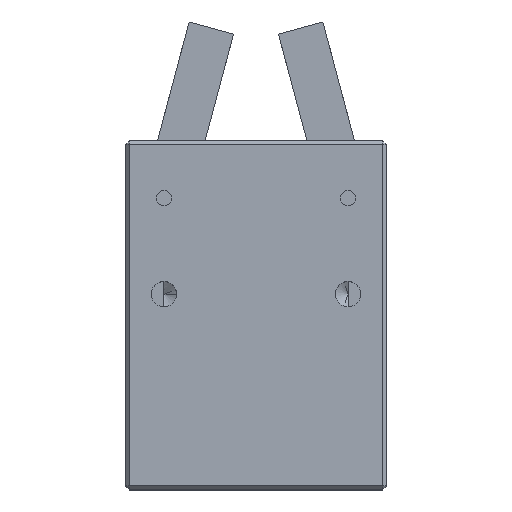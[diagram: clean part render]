
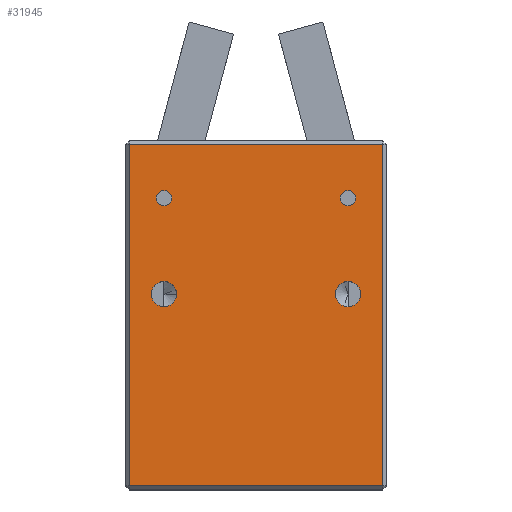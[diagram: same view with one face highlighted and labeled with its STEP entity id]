
A CAD part, top view. The second image highlights one B-rep face of the part: STEP entity #31945.
In plain terms, the highlighted planar face has unit normal (0, 0, 1).
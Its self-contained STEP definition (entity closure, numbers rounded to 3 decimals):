
#4267 = EDGE_CURVE ( 'NONE', #6740, #6705, #17646, .T. ) ;
#4349 = VERTEX_POINT ( 'NONE', #17832 ) ;
#4401 = VERTEX_POINT ( 'NONE', #17894 ) ;
#4404 = VERTEX_POINT ( 'NONE', #17893 ) ;
#4410 = EDGE_CURVE ( 'NONE', #4432, #4349, #17987, .T. ) ;
#4417 = EDGE_CURVE ( 'NONE', #4404, #4401, #18015, .T. ) ;
#4432 = VERTEX_POINT ( 'NONE', #18003 ) ;
#6705 = VERTEX_POINT ( 'NONE', #28125 ) ;
#6724 = VERTEX_POINT ( 'NONE', #28176 ) ;
#6733 = VERTEX_POINT ( 'NONE', #28173 ) ;
#6740 = VERTEX_POINT ( 'NONE', #28178 ) ;
#6741 = EDGE_CURVE ( 'NONE', #6733, #6724, #28172, .T. ) ;
#17632 = DIRECTION ( 'NONE',  ( 1., 0., 0. ) ) ;
#17633 = DIRECTION ( 'NONE',  ( 0., 0., 1. ) ) ;
#17634 = CARTESIAN_POINT ( 'NONE',  ( 5., 38., 22. ) ) ;
#17641 = AXIS2_PLACEMENT_3D ( 'NONE', #17634, #17633, #17632 ) ;
#17646 = CIRCLE ( 'NONE', #17641, 1. ) ;
#17832 = CARTESIAN_POINT ( 'NONE',  ( 6.65, 25.5, 22. ) ) ;
#17893 = CARTESIAN_POINT ( 'NONE',  ( 27.35, 25.5, 22. ) ) ;
#17894 = CARTESIAN_POINT ( 'NONE',  ( 30.65, 25.5, 22. ) ) ;
#17942 = AXIS2_PLACEMENT_3D ( 'NONE', #17972, #17964, #17963 ) ;
#17963 = DIRECTION ( 'NONE',  ( 1., 0., 0. ) ) ;
#17964 = DIRECTION ( 'NONE',  ( 0., 0., 1. ) ) ;
#17972 = CARTESIAN_POINT ( 'NONE',  ( 5., 25.5, 22. ) ) ;
#17987 = CIRCLE ( 'NONE', #17942, 1.65 ) ;
#18003 = CARTESIAN_POINT ( 'NONE',  ( 3.35, 25.5, 22. ) ) ;
#18004 = DIRECTION ( 'NONE',  ( 1., 0., 0. ) ) ;
#18005 = DIRECTION ( 'NONE',  ( 0., 0., 1. ) ) ;
#18015 = CIRCLE ( 'NONE', #18016, 1.65 ) ;
#18016 = AXIS2_PLACEMENT_3D ( 'NONE', #18018, #18005, #18004 ) ;
#18018 = CARTESIAN_POINT ( 'NONE',  ( 29., 25.5, 22. ) ) ;
#28125 = CARTESIAN_POINT ( 'NONE',  ( 6., 38., 22. ) ) ;
#28162 = DIRECTION ( 'NONE',  ( 1., 0., 0. ) ) ;
#28163 = DIRECTION ( 'NONE',  ( 0., 0., 1. ) ) ;
#28164 = CARTESIAN_POINT ( 'NONE',  ( 29., 38., 22. ) ) ;
#28165 = AXIS2_PLACEMENT_3D ( 'NONE', #28164, #28163, #28162 ) ;
#28172 = CIRCLE ( 'NONE', #28165, 1. ) ;
#28173 = CARTESIAN_POINT ( 'NONE',  ( 28., 38., 22. ) ) ;
#28176 = CARTESIAN_POINT ( 'NONE',  ( 30., 38., 22. ) ) ;
#28178 = CARTESIAN_POINT ( 'NONE',  ( 4., 38., 22. ) ) ;
#29208 = CIRCLE ( 'NONE', #29476, 1. ) ;
#29451 = DIRECTION ( 'NONE',  ( 1., 0., 0. ) ) ;
#29452 = DIRECTION ( 'NONE',  ( 0., 0., 1. ) ) ;
#29457 = CARTESIAN_POINT ( 'NONE',  ( 5., 38., 22. ) ) ;
#29476 = AXIS2_PLACEMENT_3D ( 'NONE', #29457, #29452, #29451 ) ;
#30161 = CIRCLE ( 'NONE', #30194, 1. ) ;
#30171 = FACE_BOUND ( 'NONE', #31833, .T. ) ;
#30172 = CARTESIAN_POINT ( 'NONE',  ( 29., 38., 22. ) ) ;
#30177 = CARTESIAN_POINT ( 'NONE',  ( 0.5, 45., 22. ) ) ;
#30181 = AXIS2_PLACEMENT_3D ( 'NONE', #30199, #30198, #30227 ) ;
#30194 = AXIS2_PLACEMENT_3D ( 'NONE', #30172, #30236, #30235 ) ;
#30198 = DIRECTION ( 'NONE',  ( 0., 0., 1. ) ) ;
#30199 = CARTESIAN_POINT ( 'NONE',  ( 0., 0., 22. ) ) ;
#30211 = CARTESIAN_POINT ( 'NONE',  ( 29., 25.5, 22. ) ) ;
#30216 = CIRCLE ( 'NONE', #30217, 1.65 ) ;
#30217 = AXIS2_PLACEMENT_3D ( 'NONE', #30211, #30252, #30251 ) ;
#30227 = DIRECTION ( 'NONE',  ( 1., 0., 0. ) ) ;
#30230 = FACE_BOUND ( 'NONE', #31763, .T. ) ;
#30233 = FACE_OUTER_BOUND ( 'NONE', #32034, .T. ) ;
#30234 = FACE_BOUND ( 'NONE', #32033, .T. ) ;
#30235 = DIRECTION ( 'NONE',  ( 1., 0., 0. ) ) ;
#30236 = DIRECTION ( 'NONE',  ( 0., 0., 1. ) ) ;
#30237 = FACE_BOUND ( 'NONE', #32040, .T. ) ;
#30238 = CARTESIAN_POINT ( 'NONE',  ( 0.5, 0.5, 22. ) ) ;
#30239 = PLANE ( 'NONE',  #30181 ) ;
#30241 = DIRECTION ( 'NONE',  ( 1., 0., 0. ) ) ;
#30242 = DIRECTION ( 'NONE',  ( 0., 0., 1. ) ) ;
#30249 = CARTESIAN_POINT ( 'NONE',  ( 5., 25.5, 22. ) ) ;
#30250 = CARTESIAN_POINT ( 'NONE',  ( 33.5, 0.5, 22. ) ) ;
#30251 = DIRECTION ( 'NONE',  ( 1., 0., 0. ) ) ;
#30252 = DIRECTION ( 'NONE',  ( 0., 0., 1. ) ) ;
#30253 = AXIS2_PLACEMENT_3D ( 'NONE', #30249, #30242, #30241 ) ;
#30265 = CIRCLE ( 'NONE', #30253, 1.65 ) ;
#30272 = DIRECTION ( 'NONE',  ( 0., 1., 0. ) ) ;
#30273 = VECTOR ( 'NONE', #30272, 1000. ) ;
#30274 = CARTESIAN_POINT ( 'NONE',  ( 33.5, 45.5, 22. ) ) ;
#30276 = DIRECTION ( 'NONE',  ( 1., 0., 0. ) ) ;
#30277 = VECTOR ( 'NONE', #30276, 1000. ) ;
#30278 = CARTESIAN_POINT ( 'NONE',  ( 34., 0.5, 22. ) ) ;
#30281 = CARTESIAN_POINT ( 'NONE',  ( 33.5, 45., 22. ) ) ;
#30282 = VECTOR ( 'NONE', #30297, 1000. ) ;
#30287 = LINE ( 'NONE', #30278, #30277 ) ;
#30289 = LINE ( 'NONE', #30274, #30273 ) ;
#30297 = DIRECTION ( 'NONE',  ( -1., 0., 0. ) ) ;
#30298 = CARTESIAN_POINT ( 'NONE',  ( 0., 45., 22. ) ) ;
#30299 = LINE ( 'NONE', #30298, #30282 ) ;
#30325 = DIRECTION ( 'NONE',  ( 0., -1., 0. ) ) ;
#30326 = VECTOR ( 'NONE', #30325, 1000. ) ;
#30327 = CARTESIAN_POINT ( 'NONE',  ( 0.5, 0., 22. ) ) ;
#30328 = LINE ( 'NONE', #30327, #30326 ) ;
#30420 = ORIENTED_EDGE ( 'NONE', *, *, #31885, .F. ) ;
#31378 = ORIENTED_EDGE ( 'NONE', *, *, #32044, .F. ) ;
#31763 = EDGE_LOOP ( 'NONE', ( #30420, #31993 ) ) ;
#31833 = EDGE_LOOP ( 'NONE', ( #31378, #32038 ) ) ;
#31841 = VERTEX_POINT ( 'NONE', #30177 ) ;
#31885 = EDGE_CURVE ( 'NONE', #6724, #6733, #30161, .T. ) ;
#31945 = ADVANCED_FACE ( 'NONE', ( #30230, #30171, #30237, #30234, #30233 ), #30239, .T. ) ;
#31958 = ORIENTED_EDGE ( 'NONE', *, *, #32041, .F. ) ;
#31993 = ORIENTED_EDGE ( 'NONE', *, *, #6741, .F. ) ;
#31998 = VERTEX_POINT ( 'NONE', #30238 ) ;
#32008 = ORIENTED_EDGE ( 'NONE', *, *, #32053, .T. ) ;
#32023 = ORIENTED_EDGE ( 'NONE', *, *, #32036, .F. ) ;
#32026 = ORIENTED_EDGE ( 'NONE', *, *, #4417, .F. ) ;
#32031 = ORIENTED_EDGE ( 'NONE', *, *, #32060, .T. ) ;
#32033 = EDGE_LOOP ( 'NONE', ( #31958, #32062 ) ) ;
#32034 = EDGE_LOOP ( 'NONE', ( #32031, #32059, #32054, #32008 ) ) ;
#32036 = EDGE_CURVE ( 'NONE', #4401, #4404, #30216, .T. ) ;
#32038 = ORIENTED_EDGE ( 'NONE', *, *, #4267, .F. ) ;
#32040 = EDGE_LOOP ( 'NONE', ( #32023, #32026 ) ) ;
#32041 = EDGE_CURVE ( 'NONE', #4349, #4432, #30265, .T. ) ;
#32043 = VERTEX_POINT ( 'NONE', #30250 ) ;
#32044 = EDGE_CURVE ( 'NONE', #6705, #6740, #29208, .T. ) ;
#32053 = EDGE_CURVE ( 'NONE', #32055, #31841, #30299, .T. ) ;
#32054 = ORIENTED_EDGE ( 'NONE', *, *, #32058, .T. ) ;
#32055 = VERTEX_POINT ( 'NONE', #30281 ) ;
#32057 = EDGE_CURVE ( 'NONE', #31998, #32043, #30287, .T. ) ;
#32058 = EDGE_CURVE ( 'NONE', #32043, #32055, #30289, .T. ) ;
#32059 = ORIENTED_EDGE ( 'NONE', *, *, #32057, .T. ) ;
#32060 = EDGE_CURVE ( 'NONE', #31841, #31998, #30328, .T. ) ;
#32062 = ORIENTED_EDGE ( 'NONE', *, *, #4410, .F. ) ;
